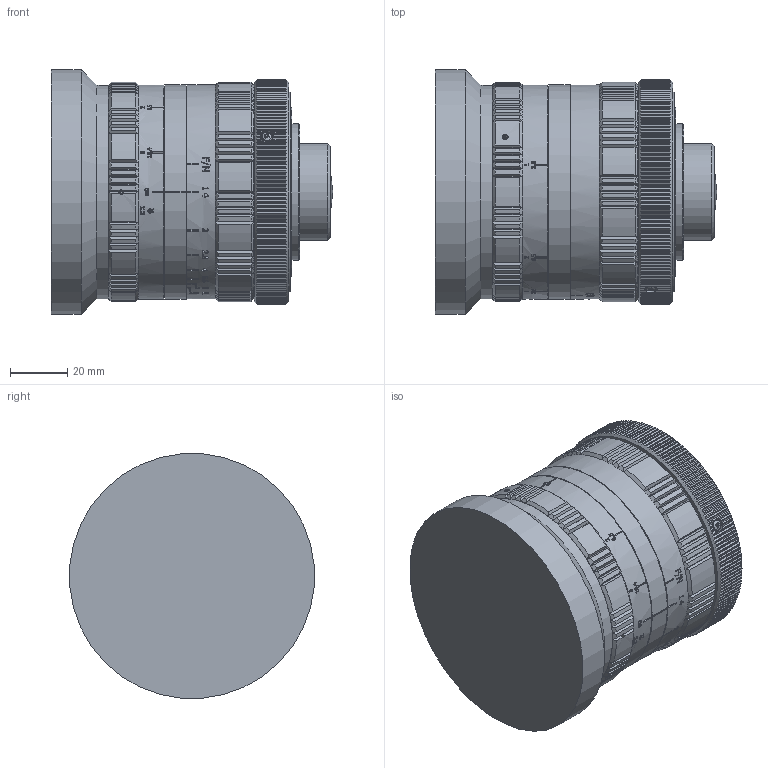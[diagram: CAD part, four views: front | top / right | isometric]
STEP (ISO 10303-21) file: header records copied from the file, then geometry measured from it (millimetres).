
FILE_DESCRIPTION((''),'2;1');
FILE_NAME('\\OPTECSERVER3\Doc Produ\Meccaniche\STP\A_2008\C0808\C0808_000\C0808_001.stp','2014-04-28T11:03:43',('mcilia'),(''),'Autodesk Inventor 2010','Autodesk Inventor 2010','');
FILE_SCHEMA(('AUTOMOTIVE_DESIGN { 1 0 10303 214 1 1 1 1 }'));
Length unit declared in the file: millimetre
Products named in the file (2): C0808_001_000 (Livello di dettaglio sostituto1); C0808_001
Assembly tree (1 placements, depth 2):
  C0808_001_000 (Livello di dettaglio sostituto1)
    C0808_001
Bounding box: 98.63 x 85.68 x 85.68 mm (x, y, z)
Surface area: 69374.5 mm2 (no closed solid volume)
Topology: 0 solids, 33 shells, 1093 faces, 3906 edges, 2743 vertices
Faces by surface type: plane 627, cylinder 229, cone 229, bspline 5, sphere 2, torus 1
Full cylindrical faces by diameter (mm): 2 x1, 30 x1, 34 x1, 48 x1, 75 x3, 86 x1
Entity records: 50959 total; most frequent: CARTESIAN_POINT 20210, ORIENTED_EDGE 6371, DIRECTION 5678, EDGE_CURVE 3880, VERTEX_POINT 2739, AXIS2_PLACEMENT_3D 2219, VECTOR 1240, LINE 1240
